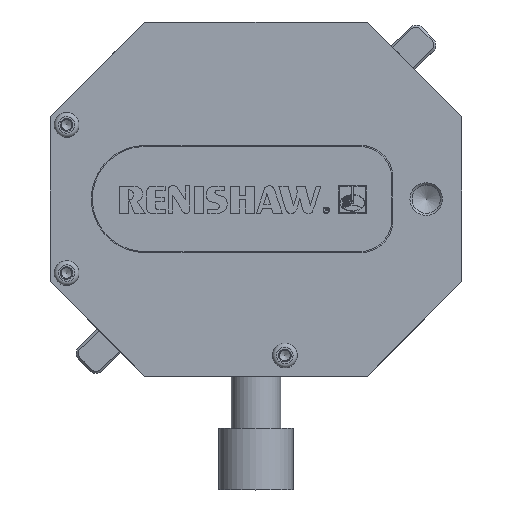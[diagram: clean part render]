
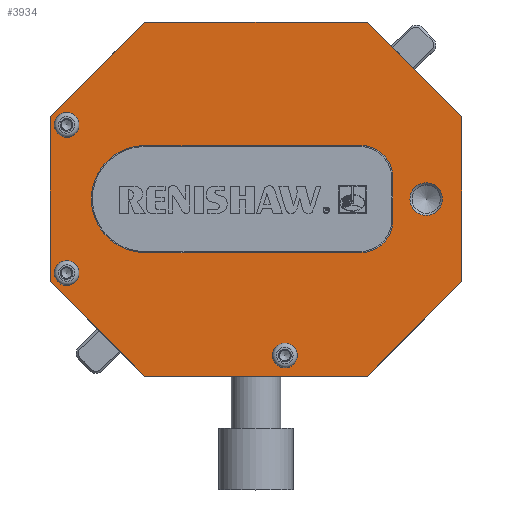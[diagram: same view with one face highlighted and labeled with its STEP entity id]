
A CAD part, top view. The second image highlights one B-rep face of the part: STEP entity #3934.
In plain terms, the highlighted planar face has unit normal (0, 0, 1).
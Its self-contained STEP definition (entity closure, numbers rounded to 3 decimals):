
#3378=CIRCLE('',#14097,3.95);
#3379=CIRCLE('',#14098,3.);
#3380=CIRCLE('',#14099,3.);
#3381=CIRCLE('',#14100,3.);
#3382=CIRCLE('',#14101,13.);
#3383=CIRCLE('',#14102,7.8);
#3384=CIRCLE('',#14103,7.8);
#3622=FACE_BOUND('',#5349,.T.);
#3623=FACE_BOUND('',#5350,.T.);
#3624=FACE_BOUND('',#5351,.T.);
#3625=FACE_BOUND('',#5352,.T.);
#3626=FACE_BOUND('',#5353,.T.);
#3627=FACE_BOUND('',#5354,.T.);
#3934=ADVANCED_FACE('',(#3622,#3623,#3624,#3625,#3626,#3627),#4401,.T.);
#4401=PLANE('',#14104);
#5349=EDGE_LOOP('',(#7204));
#5350=EDGE_LOOP('',(#7205));
#5351=EDGE_LOOP('',(#7206));
#5352=EDGE_LOOP('',(#7207));
#5353=EDGE_LOOP('',(#7208,#7209,#7210,#7211,#7212,#7213));
#5354=EDGE_LOOP('',(#7214,#7215,#7216,#7217,#7218,#7219,#7220,#7221));
#7204=ORIENTED_EDGE('',*,*,#10492,.T.);
#7205=ORIENTED_EDGE('',*,*,#10493,.T.);
#7206=ORIENTED_EDGE('',*,*,#10494,.T.);
#7207=ORIENTED_EDGE('',*,*,#10495,.T.);
#7208=ORIENTED_EDGE('',*,*,#10496,.F.);
#7209=ORIENTED_EDGE('',*,*,#10497,.F.);
#7210=ORIENTED_EDGE('',*,*,#10498,.F.);
#7211=ORIENTED_EDGE('',*,*,#10499,.T.);
#7212=ORIENTED_EDGE('',*,*,#10500,.F.);
#7213=ORIENTED_EDGE('',*,*,#10501,.T.);
#7214=ORIENTED_EDGE('',*,*,#10502,.T.);
#7215=ORIENTED_EDGE('',*,*,#10503,.T.);
#7216=ORIENTED_EDGE('',*,*,#10504,.T.);
#7217=ORIENTED_EDGE('',*,*,#10505,.T.);
#7218=ORIENTED_EDGE('',*,*,#10506,.T.);
#7219=ORIENTED_EDGE('',*,*,#10507,.T.);
#7220=ORIENTED_EDGE('',*,*,#10508,.T.);
#7221=ORIENTED_EDGE('',*,*,#10509,.T.);
#9270=VERTEX_POINT('',#19434);
#9271=VERTEX_POINT('',#19436);
#9272=VERTEX_POINT('',#19438);
#9273=VERTEX_POINT('',#19440);
#9274=VERTEX_POINT('',#19442);
#9275=VERTEX_POINT('',#19443);
#9276=VERTEX_POINT('',#19445);
#9277=VERTEX_POINT('',#19447);
#9278=VERTEX_POINT('',#19449);
#9279=VERTEX_POINT('',#19451);
#9280=VERTEX_POINT('',#19454);
#9281=VERTEX_POINT('',#19455);
#9282=VERTEX_POINT('',#19457);
#9283=VERTEX_POINT('',#19459);
#9284=VERTEX_POINT('',#19461);
#9285=VERTEX_POINT('',#19463);
#9286=VERTEX_POINT('',#19465);
#9287=VERTEX_POINT('',#19467);
#10492=EDGE_CURVE('',#9270,#9270,#3378,.T.);
#10493=EDGE_CURVE('',#9271,#9271,#3379,.T.);
#10494=EDGE_CURVE('',#9272,#9272,#3380,.T.);
#10495=EDGE_CURVE('',#9273,#9273,#3381,.T.);
#10496=EDGE_CURVE('',#9274,#9275,#11708,.T.);
#10497=EDGE_CURVE('',#9276,#9274,#3382,.T.);
#10498=EDGE_CURVE('',#9277,#9276,#11709,.T.);
#10499=EDGE_CURVE('',#9277,#9278,#3383,.T.);
#10500=EDGE_CURVE('',#9279,#9278,#11710,.T.);
#10501=EDGE_CURVE('',#9279,#9275,#3384,.T.);
#10502=EDGE_CURVE('',#9280,#9281,#11711,.T.);
#10503=EDGE_CURVE('',#9281,#9282,#11712,.T.);
#10504=EDGE_CURVE('',#9282,#9283,#11713,.T.);
#10505=EDGE_CURVE('',#9283,#9284,#11714,.T.);
#10506=EDGE_CURVE('',#9284,#9285,#11715,.T.);
#10507=EDGE_CURVE('',#9285,#9286,#11716,.T.);
#10508=EDGE_CURVE('',#9286,#9287,#11717,.T.);
#10509=EDGE_CURVE('',#9287,#9280,#11718,.T.);
#11708=LINE('',#19441,#12728);
#11709=LINE('',#19446,#12729);
#11710=LINE('',#19450,#12730);
#11711=LINE('',#19453,#12731);
#11712=LINE('',#19456,#12732);
#11713=LINE('',#19458,#12733);
#11714=LINE('',#19460,#12734);
#11715=LINE('',#19462,#12735);
#11716=LINE('',#19464,#12736);
#11717=LINE('',#19466,#12737);
#11718=LINE('',#19468,#12738);
#12728=VECTOR('',#16063,1.);
#12729=VECTOR('',#16066,1.);
#12730=VECTOR('',#16069,1.);
#12731=VECTOR('',#16072,1.);
#12732=VECTOR('',#16073,1.);
#12733=VECTOR('',#16074,1.);
#12734=VECTOR('',#16075,1.);
#12735=VECTOR('',#16076,1.);
#12736=VECTOR('',#16077,1.);
#12737=VECTOR('',#16078,1.);
#12738=VECTOR('',#16079,1.);
#14097=AXIS2_PLACEMENT_3D('',#19433,#16055,#16056);
#14098=AXIS2_PLACEMENT_3D('',#19435,#16057,#16058);
#14099=AXIS2_PLACEMENT_3D('',#19437,#16059,#16060);
#14100=AXIS2_PLACEMENT_3D('',#19439,#16061,#16062);
#14101=AXIS2_PLACEMENT_3D('',#19444,#16064,#16065);
#14102=AXIS2_PLACEMENT_3D('',#19448,#16067,#16068);
#14103=AXIS2_PLACEMENT_3D('',#19452,#16070,#16071);
#14104=AXIS2_PLACEMENT_3D('',#19469,#16080,#16081);
#16055=DIRECTION('',(0.,0.,-1.));
#16056=DIRECTION('',(1.,0.,0.));
#16057=DIRECTION('',(0.,0.,-1.));
#16058=DIRECTION('',(1.,0.,0.));
#16059=DIRECTION('',(0.,0.,-1.));
#16060=DIRECTION('',(1.,0.,0.));
#16061=DIRECTION('',(0.,0.,-1.));
#16062=DIRECTION('',(1.,0.,0.));
#16063=DIRECTION('',(1.,0.,0.));
#16064=DIRECTION('',(0.,0.,1.));
#16065=DIRECTION('',(0.,-1.,0.));
#16066=DIRECTION('',(-1.,0.,0.));
#16067=DIRECTION('',(0.,0.,-1.));
#16068=DIRECTION('',(1.,0.,0.));
#16069=DIRECTION('',(0.,1.,0.));
#16070=DIRECTION('',(0.,0.,-1.));
#16071=DIRECTION('',(1.,0.,0.));
#16072=DIRECTION('',(-0.707,-0.707,0.));
#16073=DIRECTION('',(0.,-1.,0.));
#16074=DIRECTION('',(0.707,-0.707,0.));
#16075=DIRECTION('',(1.,0.,0.));
#16076=DIRECTION('',(0.707,0.707,0.));
#16077=DIRECTION('',(0.,1.,0.));
#16078=DIRECTION('',(-0.707,0.707,0.));
#16079=DIRECTION('',(-1.,0.,0.));
#16080=DIRECTION('',(0.,0.,1.));
#16081=DIRECTION('',(1.,0.,0.));
#19433=CARTESIAN_POINT('',(13.621,10.613,97.179));
#19434=CARTESIAN_POINT('',(17.571,10.613,97.179));
#19435=CARTESIAN_POINT('',(-73.729,28.613,97.179));
#19436=CARTESIAN_POINT('',(-70.729,28.613,97.179));
#19437=CARTESIAN_POINT('',(-73.729,-7.387,97.179));
#19438=CARTESIAN_POINT('',(-70.729,-7.387,97.179));
#19439=CARTESIAN_POINT('',(-20.729,-27.387,97.179));
#19440=CARTESIAN_POINT('',(-17.729,-27.387,97.179));
#19441=CARTESIAN_POINT('',(-29.729,-2.387,97.179));
#19442=CARTESIAN_POINT('',(-54.729,-2.387,97.179));
#19443=CARTESIAN_POINT('',(-2.279,-2.387,97.179));
#19444=CARTESIAN_POINT('',(-54.729,10.613,97.179));
#19445=CARTESIAN_POINT('',(-54.729,23.613,97.179));
#19446=CARTESIAN_POINT('',(-40.479,23.613,97.179));
#19447=CARTESIAN_POINT('',(-2.279,23.613,97.179));
#19448=CARTESIAN_POINT('',(-2.279,15.813,97.179));
#19449=CARTESIAN_POINT('',(5.521,15.813,97.179));
#19450=CARTESIAN_POINT('',(5.521,-2.387,97.179));
#19451=CARTESIAN_POINT('',(5.521,5.413,97.179));
#19452=CARTESIAN_POINT('',(-2.279,5.413,97.179));
#19453=CARTESIAN_POINT('',(-62.729,45.613,97.179));
#19454=CARTESIAN_POINT('',(-54.729,53.613,97.179));
#19455=CARTESIAN_POINT('',(-77.729,30.613,97.179));
#19456=CARTESIAN_POINT('',(-77.729,10.613,97.179));
#19457=CARTESIAN_POINT('',(-77.729,-9.387,97.179));
#19458=CARTESIAN_POINT('',(-62.729,-24.387,97.179));
#19459=CARTESIAN_POINT('',(-54.729,-32.387,97.179));
#19460=CARTESIAN_POINT('',(-27.729,-32.387,97.179));
#19461=CARTESIAN_POINT('',(-0.729,-32.387,97.179));
#19462=CARTESIAN_POINT('',(7.271,-24.387,97.179));
#19463=CARTESIAN_POINT('',(22.271,-9.387,97.179));
#19464=CARTESIAN_POINT('',(22.271,10.613,97.179));
#19465=CARTESIAN_POINT('',(22.271,30.613,97.179));
#19466=CARTESIAN_POINT('',(7.271,45.613,97.179));
#19467=CARTESIAN_POINT('',(-0.729,53.613,97.179));
#19468=CARTESIAN_POINT('',(-27.729,53.613,97.179));
#19469=CARTESIAN_POINT('',(-27.729,10.613,97.179));
